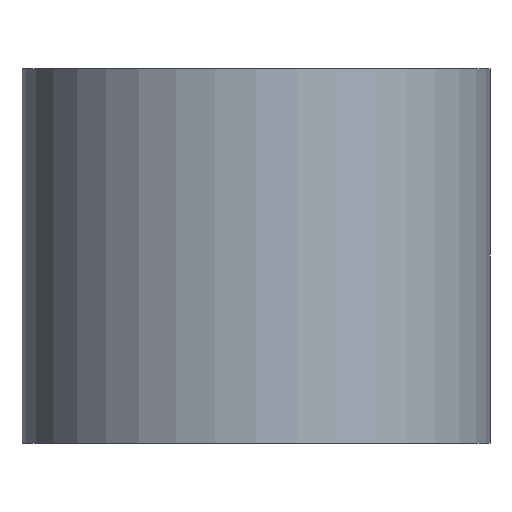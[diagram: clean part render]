
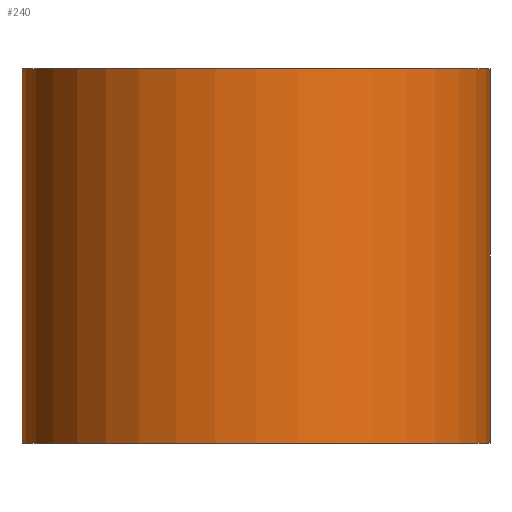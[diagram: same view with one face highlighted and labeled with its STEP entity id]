
A CAD part, front view. The second image highlights one B-rep face of the part: STEP entity #240.
In plain terms, the highlighted cylindrical face has radius 3.969 mm (diameter 7.938 mm), a partial arc.
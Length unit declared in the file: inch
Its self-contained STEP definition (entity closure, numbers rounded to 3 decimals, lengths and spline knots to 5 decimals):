
#12 = AXIS2_PLACEMENT_3D ( 'NONE', #19, #255, #277 ) ;
#13 = ORIENTED_EDGE ( 'NONE', *, *, #142, .T. ) ;
#19 = CARTESIAN_POINT ( 'NONE',  ( 0., 0., 0.25 ) ) ;
#23 = VERTEX_POINT ( 'NONE', #228 ) ;
#27 = DIRECTION ( 'NONE',  ( 1., 0., 0. ) ) ;
#34 = LINE ( 'NONE', #182, #267 ) ;
#40 = EDGE_CURVE ( 'NONE', #121, #65, #321, .T. ) ;
#45 = DIRECTION ( 'NONE',  ( 0., 0., -1. ) ) ;
#61 = FACE_OUTER_BOUND ( 'NONE', #152, .T. ) ;
#65 = VERTEX_POINT ( 'NONE', #278 ) ;
#87 = EDGE_CURVE ( 'NONE', #65, #221, #114, .T. ) ;
#100 = CARTESIAN_POINT ( 'NONE',  ( 0., 0., 0.25 ) ) ;
#104 = ORIENTED_EDGE ( 'NONE', *, *, #87, .F. ) ;
#105 = CARTESIAN_POINT ( 'NONE',  ( 0., 0., 0. ) ) ;
#114 = LINE ( 'NONE', #281, #306 ) ;
#121 = VERTEX_POINT ( 'NONE', #322 ) ;
#142 = EDGE_CURVE ( 'NONE', #23, #221, #238, .T. ) ;
#152 = EDGE_LOOP ( 'NONE', ( #104, #166, #214, #13 ) ) ;
#154 = EDGE_CURVE ( 'NONE', #121, #23, #34, .T. ) ;
#166 = ORIENTED_EDGE ( 'NONE', *, *, #40, .F. ) ;
#169 = CYLINDRICAL_SURFACE ( 'NONE', #327, 0.15625 ) ;
#178 = DIRECTION ( 'NONE',  ( 0., 0., -1. ) ) ;
#180 = DIRECTION ( 'NONE',  ( -1., 0., 0. ) ) ;
#182 = CARTESIAN_POINT ( 'NONE',  ( -0.15625, 0., 0.25 ) ) ;
#207 = DIRECTION ( 'NONE',  ( 0., 0., 1. ) ) ;
#214 = ORIENTED_EDGE ( 'NONE', *, *, #154, .T. ) ;
#221 = VERTEX_POINT ( 'NONE', #309 ) ;
#228 = CARTESIAN_POINT ( 'NONE',  ( -0.15625, 0., 0. ) ) ;
#238 = CIRCLE ( 'NONE', #320, 0.15625 ) ;
#240 = ADVANCED_FACE ( 'NONE', ( #61 ), #169, .T. ) ;
#255 = DIRECTION ( 'NONE',  ( 0., 0., 1. ) ) ;
#267 = VECTOR ( 'NONE', #178, 39.37008 ) ;
#277 = DIRECTION ( 'NONE',  ( 1., 0., 0. ) ) ;
#278 = CARTESIAN_POINT ( 'NONE',  ( 0.15625, 0., 0.25 ) ) ;
#281 = CARTESIAN_POINT ( 'NONE',  ( 0.15625, 0., 0.25 ) ) ;
#306 = VECTOR ( 'NONE', #45, 39.37008 ) ;
#309 = CARTESIAN_POINT ( 'NONE',  ( 0.15625, 0., 0. ) ) ;
#320 = AXIS2_PLACEMENT_3D ( 'NONE', #105, #207, #27 ) ;
#321 = CIRCLE ( 'NONE', #12, 0.15625 ) ;
#322 = CARTESIAN_POINT ( 'NONE',  ( -0.15625, 0., 0.25 ) ) ;
#327 = AXIS2_PLACEMENT_3D ( 'NONE', #100, #333, #180 ) ;
#333 = DIRECTION ( 'NONE',  ( 0., 0., -1. ) ) ;
